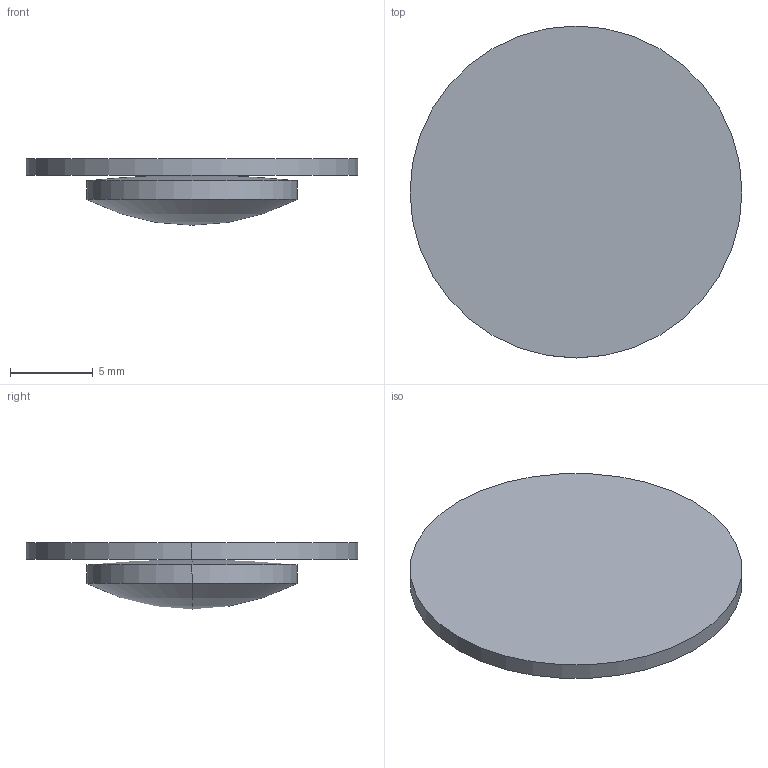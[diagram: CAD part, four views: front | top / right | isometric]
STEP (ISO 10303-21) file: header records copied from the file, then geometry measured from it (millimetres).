
FILE_DESCRIPTION(('STEP AP214'),'1');
FILE_NAME('LLQ-13-25.STEP','2020-03-09T17:41:43',(' '),(' '),'Spatial InterOp 3D',' ',' ');
FILE_SCHEMA(('AUTOMOTIVE_DESIGN { 1 0 10303 214 1 1 1 1 }'));
Length unit declared in the file: millimetre
Products named in the file (1): 1
Bounding box: 20 x 20 x 4 mm (x, y, z)
Volume: 577 mm3; surface area: 997.1 mm2
Topology: 2 solids, 2 shells, 10 faces, 20 edges, 10 vertices
Faces by surface type: sphere 4, cylinder 4, plane 2
Entity records: 255 total; most frequent: DIRECTION 52, CARTESIAN_POINT 38, ORIENTED_EDGE 32, AXIS2_PLACEMENT_3D 24, EDGE_CURVE 16, CIRCLE 12, ADVANCED_FACE 10, FACE_OUTER_BOUND 10
